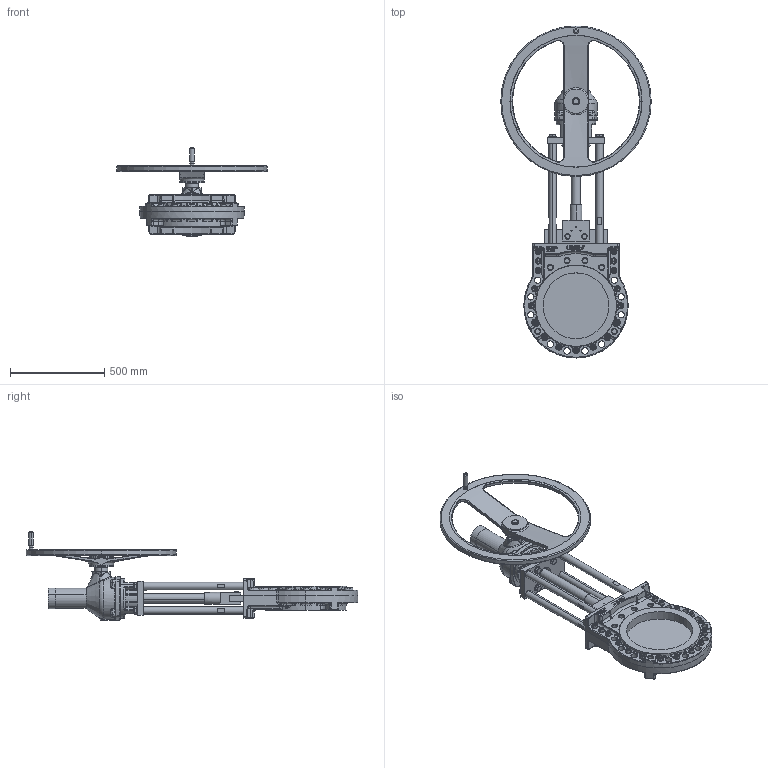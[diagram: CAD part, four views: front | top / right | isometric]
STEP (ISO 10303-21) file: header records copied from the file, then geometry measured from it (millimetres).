
FILE_DESCRIPTION (( 'STEP AP214' ), '1' );
FILE_NAME ('MHA DN 350 GK16.2.STEP', '2015-04-28T08:52:34', ( 'admin' ), ( 'Hewlett-Packard Company' ), 'SwSTEP 2.0', 'SolidWorks 2013', '' );
FILE_SCHEMA (( 'AUTOMOTIVE_DESIGN' ));
Length unit declared in the file: millimetre
Products named in the file (1): MHA DN 350 GK16.2
Bounding box: 800 x 1765 x 470 mm (x, y, z)
Volume: 41947954.8 mm3; surface area: 3075642.6 mm2
Topology: 54 solids, 70 shells, 3146 faces, 7536 edges, 4475 vertices
Faces by surface type: plane 1042, cylinder 842, bspline 495, cone 425, torus 326, sphere 16
Entity records: 152081 total; most frequent: CARTESIAN_POINT 46991, ORIENTED_EDGE 14588, DIRECTION 14512, EDGE_CURVE 7294, AXIS2_PLACEMENT_3D 5688, VERTEX_POINT 4475, EDGE_LOOP 3449, UNCERTAINTY_MEASURE_WITH_UNIT 3200
